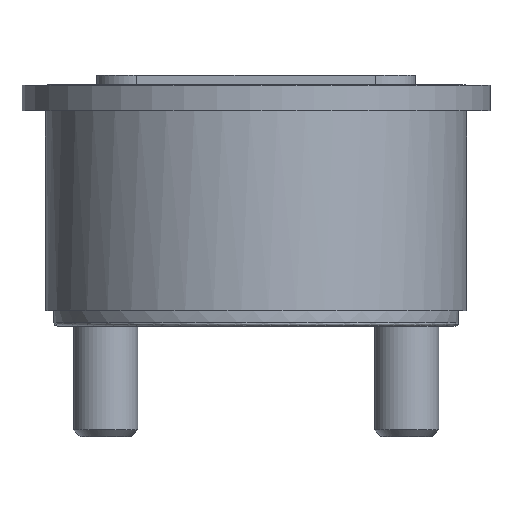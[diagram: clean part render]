
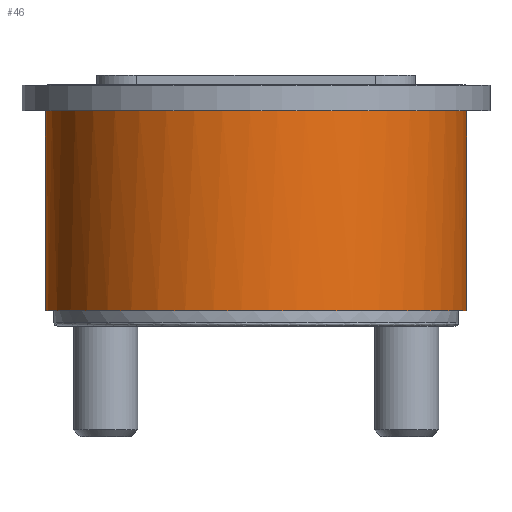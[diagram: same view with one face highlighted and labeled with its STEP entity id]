
A CAD part, front view. The second image highlights one B-rep face of the part: STEP entity #46.
In plain terms, the highlighted cylindrical face has radius 31.5 mm (diameter 63 mm), a full revolution.
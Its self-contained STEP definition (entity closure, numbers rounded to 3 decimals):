
#46=ADVANCED_FACE('',(#90),#509,.T.);
#90=FACE_OUTER_BOUND('',#130,.T.);
#130=EDGE_LOOP('',(#253,#254,#255,#256));
#253=ORIENTED_EDGE('',*,*,#350,.T.);
#254=ORIENTED_EDGE('',*,*,#351,.T.);
#255=ORIENTED_EDGE('',*,*,#352,.T.);
#256=ORIENTED_EDGE('',*,*,#351,.F.);
#350=EDGE_CURVE('',#484,#484,#392,.T.);
#351=EDGE_CURVE('',#484,#494,#393,.T.);
#352=EDGE_CURVE('',#494,#494,#394,.T.);
#392=(
BOUNDED_CURVE()
B_SPLINE_CURVE(2,(#911,#912,#913,#914,#915,#916,#917,#918,#919),
 .UNSPECIFIED.,.T.,.F.)
B_SPLINE_CURVE_WITH_KNOTS((3,2,2,2,3),(0.,49.48,98.96,
148.44,197.92),.UNSPECIFIED.)
CURVE()
GEOMETRIC_REPRESENTATION_ITEM()
RATIONAL_B_SPLINE_CURVE((1.,0.707,1.,0.707,1.,0.707,
1.,0.707,1.))
REPRESENTATION_ITEM('')
);
#393=(
BOUNDED_CURVE()
B_SPLINE_CURVE(1,(#920,#921),.UNSPECIFIED.,.F.,.F.)
B_SPLINE_CURVE_WITH_KNOTS((2,2),(0.,32.),.UNSPECIFIED.)
CURVE()
GEOMETRIC_REPRESENTATION_ITEM()
RATIONAL_B_SPLINE_CURVE((1.,1.))
REPRESENTATION_ITEM('')
);
#394=(
BOUNDED_CURVE()
B_SPLINE_CURVE(2,(#922,#923,#924,#925,#926,#927,#928,#929,#930),
 .UNSPECIFIED.,.T.,.F.)
B_SPLINE_CURVE_WITH_KNOTS((3,2,2,2,3),(-197.92,-148.44,
-98.96,-49.48,0.),.UNSPECIFIED.)
CURVE()
GEOMETRIC_REPRESENTATION_ITEM()
RATIONAL_B_SPLINE_CURVE((1.,0.707,1.,0.707,1.,0.707,
1.,0.707,1.))
REPRESENTATION_ITEM('')
);
#484=VERTEX_POINT('',#757);
#494=VERTEX_POINT('',#767);
#509=CYLINDRICAL_SURFACE('',#575,31.5);
#575=AXIS2_PLACEMENT_3D('',#647,#611,$);
#611=DIRECTION('',(0.,0.,1.));
#647=CARTESIAN_POINT('',(0.,0.,17.25));
#757=CARTESIAN_POINT('',(-31.5,0.,2.3));
#767=CARTESIAN_POINT('',(-31.5,0.,32.2));
#911=CARTESIAN_POINT('',(-31.5,0.,2.3));
#912=CARTESIAN_POINT('',(-31.5,-31.5,2.3));
#913=CARTESIAN_POINT('',(0.,-31.5,2.3));
#914=CARTESIAN_POINT('',(31.5,-31.5,2.3));
#915=CARTESIAN_POINT('',(31.5,0.,2.3));
#916=CARTESIAN_POINT('',(31.5,31.5,2.3));
#917=CARTESIAN_POINT('',(0.,31.5,2.3));
#918=CARTESIAN_POINT('',(-31.5,31.5,2.3));
#919=CARTESIAN_POINT('',(-31.5,0.,2.3));
#920=CARTESIAN_POINT('',(-31.5,0.,2.3));
#921=CARTESIAN_POINT('',(-31.5,0.,32.2));
#922=CARTESIAN_POINT('',(-31.5,0.,32.2));
#923=CARTESIAN_POINT('',(-31.5,31.5,32.2));
#924=CARTESIAN_POINT('',(0.,31.5,32.2));
#925=CARTESIAN_POINT('',(31.5,31.5,32.2));
#926=CARTESIAN_POINT('',(31.5,0.,32.2));
#927=CARTESIAN_POINT('',(31.5,-31.5,32.2));
#928=CARTESIAN_POINT('',(0.,-31.5,32.2));
#929=CARTESIAN_POINT('',(-31.5,-31.5,32.2));
#930=CARTESIAN_POINT('',(-31.5,0.,32.2));
